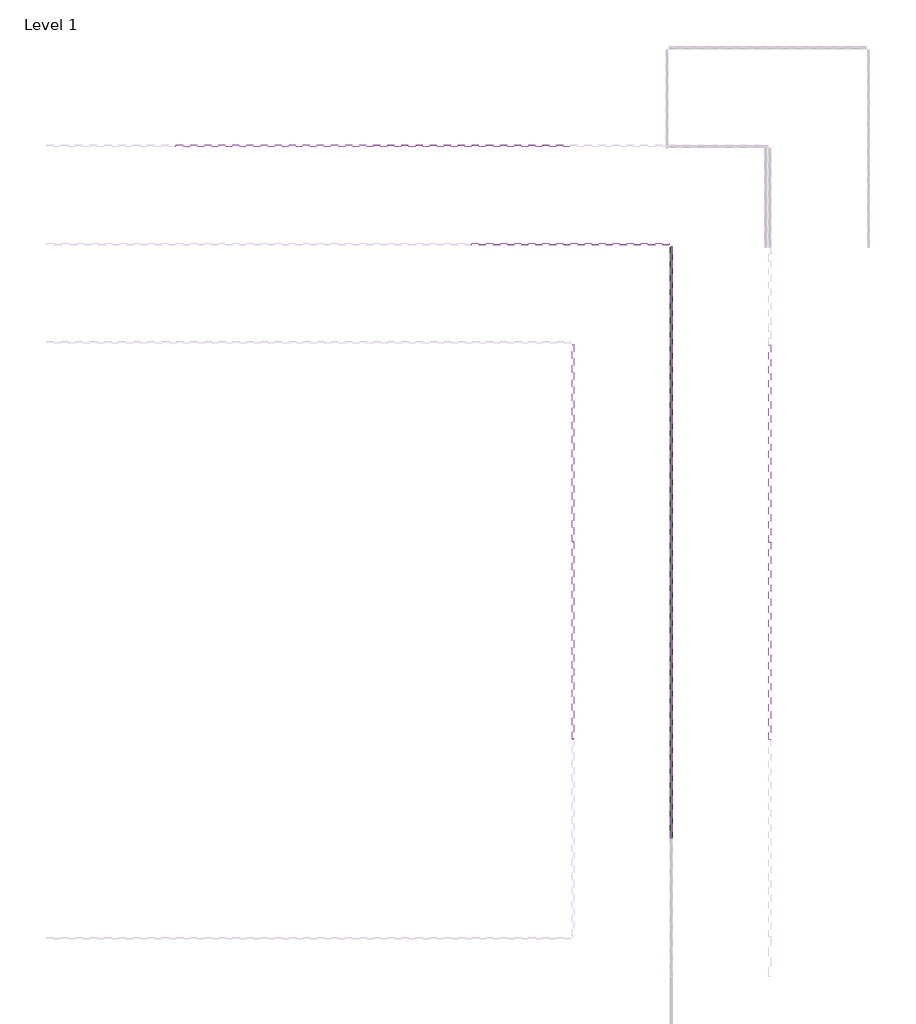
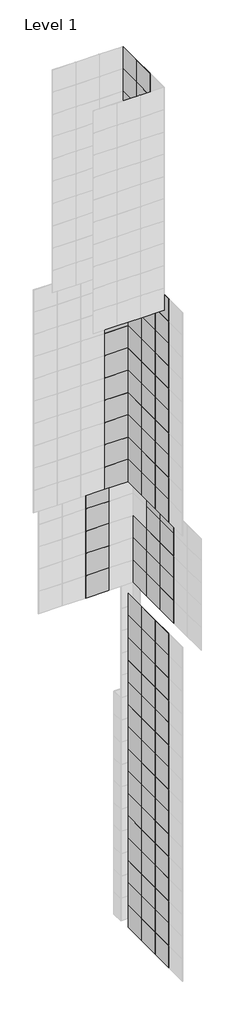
# One storey, part 14 of 15: 135 plates.
"""IFC4 building model written with IfcOpenShell, lengths in millimetres."""

import ifcopenshell
import ifcopenshell.guid

model = None  # the IFC model being written
_history = None  # IfcOwnerHistory: only IFC2X3 demands one
_inside = {}  # id of a spatial element -> (the spatial element, [elements in it])
_under = {}  # id of a project, library or spatial element -> (it, [spatial elements below it])
_declared = {}  # id of a project -> (the project, [libraries it declares])
_typed = {}  # id of a type object -> (the type object, [elements of that type])
_made_of = {}  # id of a material, layer set ... -> (it, [elements and type objects made of it])


def new_model(schema):
    """Start an empty IFC model of exactly this schema.

    Asked for "IFC4X3", IfcOpenShell would pick the latest addendum, in which some entities
    have other attributes; the version numbers below select the first issue.
    IFC2X3 requires an IfcOwnerHistory on every rooted entity: one is made here for all.
    """
    global model, _history
    if schema == "IFC4X3":
        model = ifcopenshell.file(schema_version=(4, 3, 0, 0))
    else:
        model = ifcopenshell.file(schema=schema)
    _inside.clear()
    _under.clear()
    _declared.clear()
    _typed.clear()
    _made_of.clear()
    _history = None
    if model.schema == "IFC2X3":
        org = make("IfcOrganization", Name="unknown")
        user = make(
            "IfcPersonAndOrganization",
            ThePerson=make("IfcPerson", FamilyName="unknown"),
            TheOrganization=org,
        )
        app = make(
            "IfcApplication",
            ApplicationDeveloper=org,
            Version="unknown",
            ApplicationFullName="unknown",
            ApplicationIdentifier="unknown",
        )
        _history = make(
            "IfcOwnerHistory",
            OwningUser=user,
            OwningApplication=app,
            ChangeAction="ADDED",
            CreationDate=0,
        )
    return model


def make(cls, **values):
    """One entity of the class cls with the attributes given. An attribute that is None is left unset."""
    return model.create_entity(
        cls, **{name: value for name, value in values.items() if value is not None}
    )


def rooted(cls, **values):
    """An entity with a GlobalId (a new one), such as an element, a storey or a relation."""
    return make(cls, GlobalId=ifcopenshell.guid.new(), OwnerHistory=_history, **values)


def si_unit(unit_type, name, prefix=None):
    """IfcSIUnit, for example si_unit("LENGTHUNIT", "METRE", prefix="MILLI")."""
    return make("IfcSIUnit", UnitType=unit_type, Prefix=prefix, Name=name)


def assignment(units):
    """IfcUnitAssignment: the units of a project."""
    return None if units is None else make("IfcUnitAssignment", Units=units)


def point(xyz):
    """IfcCartesianPoint."""
    return None if xyz is None else make("IfcCartesianPoint", Coordinates=xyz)


def direction(xyz):
    """IfcDirection."""
    return None if xyz is None else make("IfcDirection", DirectionRatios=xyz)


def frame(location, z_axis=None, x_axis=None):
    """IfcAxis2Placement3D, a coordinate frame: its origin and axes. An axis left out is left unset."""
    return make(
        "IfcAxis2Placement3D",
        Location=point(location),
        Axis=direction(z_axis),
        RefDirection=direction(x_axis),
    )


def origin():
    """The frame at (0, 0, 0) with its axes left unset."""
    return frame((0.0, 0.0, 0.0))


def origin_with_axes():
    """The frame at (0, 0, 0) with the z axis (0, 0, 1) and the x axis (1, 0, 0) written out."""
    return frame((0.0, 0.0, 0.0), z_axis=(0.0, 0.0, 1.0), x_axis=(1.0, 0.0, 0.0))


def place(relative_to, where):
    """IfcLocalPlacement: puts the frame where relative to a parent placement (None: the world)."""
    return make(
        "IfcLocalPlacement", PlacementRelTo=relative_to, RelativePlacement=where
    )


def context(
    kind, dimensions, precision=None, world=None, true_north=None, identifier=None
):
    """IfcGeometricRepresentationContext, for example the 3D "Model" context."""
    return make(
        "IfcGeometricRepresentationContext",
        ContextIdentifier=identifier,
        ContextType=kind,
        CoordinateSpaceDimension=dimensions,
        Precision=precision,
        WorldCoordinateSystem=world,
        TrueNorth=true_north,
    )


def project(units=None, contexts=None):
    """IfcProject with its units and contexts."""
    return rooted(
        "IfcProject",
        Name="project",
        RepresentationContexts=contexts,
        UnitsInContext=assignment(units),
    )


def spatial(cls, under=None, at=None, **own):
    """A site, building, storey or space (cls), placed at a placement, below another one or the project."""
    s = rooted(cls, ObjectPlacement=at, **own)
    if under is not None:
        _under.setdefault(under.id(), (under, []))[1].append(s)
    return s


def polyline(points):
    """IfcPolyline through the points."""
    return make("IfcPolyline", Points=[point(p) for p in points])


def outline(outer, holes=None, kind="AREA"):
    """IfcArbitraryClosedProfileDef: a profile drawn as a closed curve; with holes, ...WithVoids."""
    if holes is None:
        return make("IfcArbitraryClosedProfileDef", ProfileType=kind, OuterCurve=outer)
    return make(
        "IfcArbitraryProfileDefWithVoids",
        ProfileType=kind,
        OuterCurve=outer,
        InnerCurves=holes,
    )


def extrude(swept, where, along, depth):
    """IfcExtrudedAreaSolid: the profile swept, set in the frame where, extruded along a direction by depth."""
    return make(
        "IfcExtrudedAreaSolid",
        SweptArea=swept,
        Position=where,
        ExtrudedDirection=direction(along),
        Depth=depth,
    )


def shape(context_of_items, identifier, shape_type, items):
    """IfcShapeRepresentation: the items that make up one representation, for example the "Body"."""
    return make(
        "IfcShapeRepresentation",
        ContextOfItems=context_of_items,
        RepresentationIdentifier=identifier,
        RepresentationType=shape_type,
        Items=items,
    )


def source(mapping_origin, context_of_items, identifier, shape_type, items):
    """IfcRepresentationMap: a shape defined once, which mapped items show again and again."""
    return make(
        "IfcRepresentationMap",
        MappingOrigin=mapping_origin,
        MappedRepresentation=shape(context_of_items, identifier, shape_type, items),
    )


def transform(
    local_origin,
    x_axis=None,
    y_axis=None,
    z_axis=None,
    scale=None,
    scale2=None,
    scale3=None,
    uniform=True,
):
    """IfcCartesianTransformationOperator3D, or its non-uniform kind. x_axis, y_axis, z_axis: its Axis1, 2, 3."""
    if uniform:
        return make(
            "IfcCartesianTransformationOperator3D",
            Axis1=direction(x_axis),
            Axis2=direction(y_axis),
            LocalOrigin=point(local_origin),
            Scale=scale,
            Axis3=direction(z_axis),
        )
    return make(
        "IfcCartesianTransformationOperator3DnonUniform",
        Axis1=direction(x_axis),
        Axis2=direction(y_axis),
        LocalOrigin=point(local_origin),
        Scale=scale,
        Axis3=direction(z_axis),
        Scale2=scale2,
        Scale3=scale3,
    )


def mapped(mapping_source, mapping_target):
    """IfcMappedItem: shows the shape of a source again, moved by a transform."""
    return make(
        "IfcMappedItem", MappingSource=mapping_source, MappingTarget=mapping_target
    )


def made_of(thing, what):
    """Note that an element or type object is made of a material, layer set ...; save() writes the relation."""
    if what is not None:
        _made_of.setdefault(what.id(), (what, []))[1].append(thing)
    return thing


def element(
    cls,
    number,
    at=None,
    inside=None,
    cuts=None,
    type_object=None,
    material=None,
    context=None,
    identifier="Body",
    shape_type=None,
    held_by="IfcProductDefinitionShape",
    body=None,
    shapes=None,
    **own,
):
    """One element of the class cls, such as IfcWall. Its Tag is "e" and its number.

    at: its placement. inside: the storey or other place that contains it. cuts: it is an
    opening in that element (IfcRelVoidsElement). A single representation is given by context,
    identifier, shape_type and body (its items); several are given by shapes. held_by: the class
    of the entity that holds the representations. save() writes the other relations.
    """
    e = rooted(cls, Tag="e%d" % number, ObjectPlacement=at, **own)
    if body is not None:
        shapes = [shape(context, identifier, shape_type, body)]
    if shapes is not None:
        e.Representation = make(held_by, Representations=shapes)
    if inside is not None:
        _inside.setdefault(inside.id(), (inside, []))[1].append(e)
    if cuts is not None:
        rooted(
            "IfcRelVoidsElement", RelatingBuildingElement=cuts, RelatedOpeningElement=e
        )
    if type_object is not None:
        _typed.setdefault(type_object.id(), (type_object, []))[1].append(e)
    return made_of(e, material)


def aggregate(whole, parts):
    """IfcRelAggregates: a whole, such as a stair, and the parts it consists of."""
    return rooted("IfcRelAggregates", RelatingObject=whole, RelatedObjects=parts)


def save(model, path):
    """Write the relations noted so far, then the file.

    IfcRelAggregates (storeys below a building ...), IfcRelContainedInSpatialStructure (elements
    in a storey), IfcRelDefinesByType, IfcRelAssociatesMaterial and IfcRelDeclares: one each for
    every whole, place, type object, material and project.
    """
    for whole, parts in _under.values():
        aggregate(whole, parts)
    for where, things in _inside.values():
        rooted(
            "IfcRelContainedInSpatialStructure",
            RelatedElements=things,
            RelatingStructure=where,
        )
    for kind, things in _typed.values():
        rooted("IfcRelDefinesByType", RelatedObjects=things, RelatingType=kind)
    for what, things in _made_of.values():
        rooted("IfcRelAssociatesMaterial", RelatedObjects=things, RelatingMaterial=what)
    for by, libraries in _declared.values():
        rooted("IfcRelDeclares", RelatingContext=by, RelatedDefinitions=libraries)
    model.write(path)


def system_panel_glazed_0a0842ec(model_context):
    return source(origin(), model_context, "Body", "SweptSolid", [
        extrude(outline(polyline([(0.0, -1524.0), (0.0, 0.0), (0.0, 1524.0), (3048.0, 1524.0), (3048.0, -1524.0), (0.0, -1524.0)])), frame((0.0, -44.45, 0.0), z_axis=(0.0, 1.0, 0.0), x_axis=(0.0, 0.0, 1.0)), (0.0, 0.0, 1.0), 25.4),
    ])


def system_panel_glazed_aa64d645(model_context):
    return source(origin(), model_context, "Body", "SweptSolid", [
        extrude(outline(polyline([(1524.0, -44.45), (-1524.0, -44.45), (-1524.0, -19.05), (1524.0, -19.05), (1524.0, -44.45)])), origin_with_axes(), (0.0, 0.0, 1.0), 3048.0),
    ])


def system_panel_glazed_b248394d(model_context):
    return source(origin(), model_context, "Body", "SweptSolid", [
        extrude(outline(polyline([(1524.0, 19.05), (-1524.0, 19.05), (-1524.0, 44.45), (1524.0, 44.45), (1524.0, 19.05)])), origin_with_axes(), (0.0, 0.0, 1.0), 3048.0),
    ])


model = new_model("IFC4")

# Units and contexts
model_context = context("Model", 3, world=origin())
ifc_project = project(units=[si_unit("LENGTHUNIT", "METRE", prefix="MILLI")], contexts=[model_context])

# Site, building, storey
site = spatial("IfcSite", under=ifc_project)
building = spatial("IfcBuilding", under=site)
storey = spatial("IfcBuildingStorey", under=building, Name="Level 1", Elevation=0.0)

# Plates
placement = place(None, origin())
system_panel_glazed_shape = system_panel_glazed_0a0842ec(model_context)
element("IfcPlate", 1, ObjectType="System Panel : Glazed", at=placement, inside=storey, context=model_context, shape_type="MappedRepresentation", body=[
    mapped(system_panel_glazed_shape, transform((51834.2903978, 8351.0904402, 45720.0), x_axis=(0.0, 1.0, 0.0), y_axis=(-1.0, 0.0, 0.0), z_axis=(0.0, 0.0, 1.0))),
])
system_panel_glazed_2_shape = system_panel_glazed_aa64d645(model_context)
element("IfcPlate", 2, ObjectType="System Panel : Glazed", at=placement, inside=storey, context=model_context, shape_type="MappedRepresentation", body=[
    mapped(system_panel_glazed_2_shape, transform((51834.2903978, 2255.0904402, 45720.0), x_axis=(0.0, 1.0, 0.0), y_axis=(-1.0, 0.0, 0.0), z_axis=(0.0, 0.0, 1.0))),
])
element("IfcPlate", 3, ObjectType="System Panel : Glazed", at=placement, inside=storey, context=model_context, shape_type="MappedRepresentation", body=[
    mapped(system_panel_glazed_2_shape, transform((51834.2903978, 5303.0904402, 45720.0), x_axis=(0.0, 1.0, 0.0), y_axis=(-1.0, 0.0, 0.0), z_axis=(0.0, 0.0, 1.0))),
])
element("IfcPlate", 4, ObjectType="System Panel : Glazed", at=placement, inside=storey, context=model_context, shape_type="MappedRepresentation", body=[
    mapped(system_panel_glazed_2_shape, transform((51834.2903978, 2255.0904402, 48768.0), x_axis=(0.0, 1.0, 0.0), y_axis=(-1.0, 0.0, 0.0), z_axis=(0.0, 0.0, 1.0))),
])
element("IfcPlate", 5, ObjectType="System Panel : Glazed", at=placement, inside=storey, context=model_context, shape_type="MappedRepresentation", body=[
    mapped(system_panel_glazed_2_shape, transform((51834.2903978, 5303.0904402, 48768.0), x_axis=(0.0, 1.0, 0.0), y_axis=(-1.0, 0.0, 0.0), z_axis=(0.0, 0.0, 1.0))),
])
element("IfcPlate", 6, ObjectType="System Panel : Glazed", at=placement, inside=storey, context=model_context, shape_type="MappedRepresentation", body=[
    mapped(system_panel_glazed_2_shape, transform((51834.2903978, 8351.0904402, 48768.0), x_axis=(0.0, 1.0, 0.0), y_axis=(-1.0, 0.0, 0.0), z_axis=(0.0, 0.0, 1.0))),
])
element("IfcPlate", 7, ObjectType="System Panel : Glazed", at=placement, inside=storey, context=model_context, shape_type="MappedRepresentation", body=[
    mapped(system_panel_glazed_2_shape, transform((51834.2903978, 2255.0904402, 51816.0), x_axis=(0.0, 1.0, 0.0), y_axis=(-1.0, 0.0, 0.0), z_axis=(0.0, 0.0, 1.0))),
])
element("IfcPlate", 8, ObjectType="System Panel : Glazed", at=placement, inside=storey, context=model_context, shape_type="MappedRepresentation", body=[
    mapped(system_panel_glazed_2_shape, transform((51834.2903978, 5303.0904402, 51816.0), x_axis=(0.0, 1.0, 0.0), y_axis=(-1.0, 0.0, 0.0), z_axis=(0.0, 0.0, 1.0))),
])
element("IfcPlate", 9, ObjectType="System Panel : Glazed", at=placement, inside=storey, context=model_context, shape_type="MappedRepresentation", body=[
    mapped(system_panel_glazed_2_shape, transform((51834.2903978, 8351.0904402, 51816.0), x_axis=(0.0, 1.0, 0.0), y_axis=(-1.0, 0.0, 0.0), z_axis=(0.0, 0.0, 1.0))),
])
element("IfcPlate", 10, ObjectType="System Panel : Glazed", at=placement, inside=storey, context=model_context, shape_type="MappedRepresentation", body=[
    mapped(system_panel_glazed_2_shape, transform((51834.2903978, 2255.0904402, 54864.0), x_axis=(0.0, 1.0, 0.0), y_axis=(-1.0, 0.0, 0.0), z_axis=(0.0, 0.0, 1.0))),
])
element("IfcPlate", 11, ObjectType="System Panel : Glazed", at=placement, inside=storey, context=model_context, shape_type="MappedRepresentation", body=[
    mapped(system_panel_glazed_2_shape, transform((51834.2903978, 5303.0904402, 54864.0), x_axis=(0.0, 1.0, 0.0), y_axis=(-1.0, 0.0, 0.0), z_axis=(0.0, 0.0, 1.0))),
])
element("IfcPlate", 12, ObjectType="System Panel : Glazed", at=placement, inside=storey, context=model_context, shape_type="MappedRepresentation", body=[
    mapped(system_panel_glazed_2_shape, transform((51834.2903978, 2255.0904402, 57912.0), x_axis=(0.0, 1.0, 0.0), y_axis=(-1.0, 0.0, 0.0), z_axis=(0.0, 0.0, 1.0))),
])
element("IfcPlate", 13, ObjectType="System Panel : Glazed", at=placement, inside=storey, context=model_context, shape_type="MappedRepresentation", body=[
    mapped(system_panel_glazed_2_shape, transform((51834.2903978, 5303.0904402, 57912.0), x_axis=(0.0, 1.0, 0.0), y_axis=(-1.0, 0.0, 0.0), z_axis=(0.0, 0.0, 1.0))),
])
element("IfcPlate", 14, ObjectType="System Panel : Glazed", at=placement, inside=storey, context=model_context, shape_type="MappedRepresentation", body=[
    mapped(system_panel_glazed_2_shape, transform((47262.2903978, 9875.0904402, 45720.0), x_axis=(-1.0, 0.0, 0.0), y_axis=(0.0, -1.0, 0.0), z_axis=(0.0, 0.0, 1.0))),
])
element("IfcPlate", 15, ObjectType="System Panel : Glazed", at=placement, inside=storey, context=model_context, shape_type="MappedRepresentation", body=[
    mapped(system_panel_glazed_2_shape, transform((47262.2903978, 9875.0904402, 48768.0), x_axis=(-1.0, 0.0, 0.0), y_axis=(0.0, -1.0, 0.0), z_axis=(0.0, 0.0, 1.0))),
])
element("IfcPlate", 16, ObjectType="System Panel : Glazed", at=placement, inside=storey, context=model_context, shape_type="MappedRepresentation", body=[
    mapped(system_panel_glazed_2_shape, transform((47262.2903978, 9875.0904402, 51816.0), x_axis=(-1.0, 0.0, 0.0), y_axis=(0.0, -1.0, 0.0), z_axis=(0.0, 0.0, 1.0))),
])
element("IfcPlate", 17, ObjectType="System Panel : Glazed", at=placement, inside=storey, context=model_context, shape_type="MappedRepresentation", body=[
    mapped(system_panel_glazed_2_shape, transform((47262.2903978, 9875.0904402, 54864.0), x_axis=(-1.0, 0.0, 0.0), y_axis=(0.0, -1.0, 0.0), z_axis=(0.0, 0.0, 1.0))),
])
element("IfcPlate", 18, ObjectType="System Panel : Glazed", at=placement, inside=storey, context=model_context, shape_type="MappedRepresentation", body=[
    mapped(system_panel_glazed_2_shape, transform((47262.2903978, 9875.0904402, 57912.0), x_axis=(-1.0, 0.0, 0.0), y_axis=(0.0, -1.0, 0.0), z_axis=(0.0, 0.0, 1.0))),
])
element("IfcPlate", 19, ObjectType="System Panel : Glazed", at=placement, inside=storey, context=model_context, shape_type="MappedRepresentation", body=[
    mapped(system_panel_glazed_2_shape, transform((50310.2903978, 731.0904402, 60960.0), x_axis=(0.0, 1.0, 0.0), y_axis=(-1.0, 0.0, 0.0), z_axis=(0.0, 0.0, 1.0))),
])
element("IfcPlate", 20, ObjectType="System Panel : Glazed", at=placement, inside=storey, context=model_context, shape_type="MappedRepresentation", body=[
    mapped(system_panel_glazed_2_shape, transform((50310.2903978, 3779.0904402, 60960.0), x_axis=(0.0, 1.0, 0.0), y_axis=(-1.0, 0.0, 0.0), z_axis=(0.0, 0.0, 1.0))),
])
element("IfcPlate", 21, ObjectType="System Panel : Glazed", at=placement, inside=storey, context=model_context, shape_type="MappedRepresentation", body=[
    mapped(system_panel_glazed_2_shape, transform((50310.2903978, 6827.0904402, 60960.0), x_axis=(0.0, 1.0, 0.0), y_axis=(-1.0, 0.0, 0.0), z_axis=(0.0, 0.0, 1.0))),
])
element("IfcPlate", 22, ObjectType="System Panel : Glazed", at=placement, inside=storey, context=model_context, shape_type="MappedRepresentation", body=[
    mapped(system_panel_glazed_2_shape, transform((50310.2903978, 731.0904402, 64008.0), x_axis=(0.0, 1.0, 0.0), y_axis=(-1.0, 0.0, 0.0), z_axis=(0.0, 0.0, 1.0))),
])
element("IfcPlate", 23, ObjectType="System Panel : Glazed", at=placement, inside=storey, context=model_context, shape_type="MappedRepresentation", body=[
    mapped(system_panel_glazed_2_shape, transform((50310.2903978, 3779.0904402, 64008.0), x_axis=(0.0, 1.0, 0.0), y_axis=(-1.0, 0.0, 0.0), z_axis=(0.0, 0.0, 1.0))),
])
element("IfcPlate", 24, ObjectType="System Panel : Glazed", at=placement, inside=storey, context=model_context, shape_type="MappedRepresentation", body=[
    mapped(system_panel_glazed_2_shape, transform((50310.2903978, 6827.0904402, 64008.0), x_axis=(0.0, 1.0, 0.0), y_axis=(-1.0, 0.0, 0.0), z_axis=(0.0, 0.0, 1.0))),
])
element("IfcPlate", 25, ObjectType="System Panel : Glazed", at=placement, inside=storey, context=model_context, shape_type="MappedRepresentation", body=[
    mapped(system_panel_glazed_2_shape, transform((50310.2903978, 731.0904402, 67056.0), x_axis=(0.0, 1.0, 0.0), y_axis=(-1.0, 0.0, 0.0), z_axis=(0.0, 0.0, 1.0))),
])
element("IfcPlate", 26, ObjectType="System Panel : Glazed", at=placement, inside=storey, context=model_context, shape_type="MappedRepresentation", body=[
    mapped(system_panel_glazed_2_shape, transform((50310.2903978, 3779.0904402, 67056.0), x_axis=(0.0, 1.0, 0.0), y_axis=(-1.0, 0.0, 0.0), z_axis=(0.0, 0.0, 1.0))),
])
element("IfcPlate", 27, ObjectType="System Panel : Glazed", at=placement, inside=storey, context=model_context, shape_type="MappedRepresentation", body=[
    mapped(system_panel_glazed_2_shape, transform((50310.2903978, 6827.0904402, 67056.0), x_axis=(0.0, 1.0, 0.0), y_axis=(-1.0, 0.0, 0.0), z_axis=(0.0, 0.0, 1.0))),
])
element("IfcPlate", 28, ObjectType="System Panel : Glazed", at=placement, inside=storey, context=model_context, shape_type="MappedRepresentation", body=[
    mapped(system_panel_glazed_2_shape, transform((50310.2903978, 731.0904402, 70104.0), x_axis=(0.0, 1.0, 0.0), y_axis=(-1.0, 0.0, 0.0), z_axis=(0.0, 0.0, 1.0))),
])
element("IfcPlate", 29, ObjectType="System Panel : Glazed", at=placement, inside=storey, context=model_context, shape_type="MappedRepresentation", body=[
    mapped(system_panel_glazed_2_shape, transform((50310.2903978, 3779.0904402, 70104.0), x_axis=(0.0, 1.0, 0.0), y_axis=(-1.0, 0.0, 0.0), z_axis=(0.0, 0.0, 1.0))),
])
element("IfcPlate", 30, ObjectType="System Panel : Glazed", at=placement, inside=storey, context=model_context, shape_type="MappedRepresentation", body=[
    mapped(system_panel_glazed_2_shape, transform((50310.2903978, 6827.0904402, 70104.0), x_axis=(0.0, 1.0, 0.0), y_axis=(-1.0, 0.0, 0.0), z_axis=(0.0, 0.0, 1.0))),
])
element("IfcPlate", 31, ObjectType="System Panel : Glazed", at=placement, inside=storey, context=model_context, shape_type="MappedRepresentation", body=[
    mapped(system_panel_glazed_2_shape, transform((50310.2903978, 731.0904402, 73152.0), x_axis=(0.0, 1.0, 0.0), y_axis=(-1.0, 0.0, 0.0), z_axis=(0.0, 0.0, 1.0))),
])
element("IfcPlate", 32, ObjectType="System Panel : Glazed", at=placement, inside=storey, context=model_context, shape_type="MappedRepresentation", body=[
    mapped(system_panel_glazed_2_shape, transform((50310.2903978, 3779.0904402, 73152.0), x_axis=(0.0, 1.0, 0.0), y_axis=(-1.0, 0.0, 0.0), z_axis=(0.0, 0.0, 1.0))),
])
element("IfcPlate", 33, ObjectType="System Panel : Glazed", at=placement, inside=storey, context=model_context, shape_type="MappedRepresentation", body=[
    mapped(system_panel_glazed_2_shape, transform((50310.2903978, 6827.0904402, 73152.0), x_axis=(0.0, 1.0, 0.0), y_axis=(-1.0, 0.0, 0.0), z_axis=(0.0, 0.0, 1.0))),
])
element("IfcPlate", 34, ObjectType="System Panel : Glazed", at=placement, inside=storey, context=model_context, shape_type="MappedRepresentation", body=[
    mapped(system_panel_glazed_2_shape, transform((50310.2903978, 731.0904402, 76200.0), x_axis=(0.0, 1.0, 0.0), y_axis=(-1.0, 0.0, 0.0), z_axis=(0.0, 0.0, 1.0))),
])
element("IfcPlate", 35, ObjectType="System Panel : Glazed", at=placement, inside=storey, context=model_context, shape_type="MappedRepresentation", body=[
    mapped(system_panel_glazed_2_shape, transform((50310.2903978, 3779.0904402, 76200.0), x_axis=(0.0, 1.0, 0.0), y_axis=(-1.0, 0.0, 0.0), z_axis=(0.0, 0.0, 1.0))),
])
element("IfcPlate", 36, ObjectType="System Panel : Glazed", at=placement, inside=storey, context=model_context, shape_type="MappedRepresentation", body=[
    mapped(system_panel_glazed_2_shape, transform((50310.2903978, 6827.0904402, 76200.0), x_axis=(0.0, 1.0, 0.0), y_axis=(-1.0, 0.0, 0.0), z_axis=(0.0, 0.0, 1.0))),
])
element("IfcPlate", 37, ObjectType="System Panel : Glazed", at=placement, inside=storey, context=model_context, shape_type="MappedRepresentation", body=[
    mapped(system_panel_glazed_2_shape, transform((50310.2903978, 731.0904402, 79248.0), x_axis=(0.0, 1.0, 0.0), y_axis=(-1.0, 0.0, 0.0), z_axis=(0.0, 0.0, 1.0))),
])
element("IfcPlate", 38, ObjectType="System Panel : Glazed", at=placement, inside=storey, context=model_context, shape_type="MappedRepresentation", body=[
    mapped(system_panel_glazed_2_shape, transform((50310.2903978, 3779.0904402, 79248.0), x_axis=(0.0, 1.0, 0.0), y_axis=(-1.0, 0.0, 0.0), z_axis=(0.0, 0.0, 1.0))),
])
element("IfcPlate", 39, ObjectType="System Panel : Glazed", at=placement, inside=storey, context=model_context, shape_type="MappedRepresentation", body=[
    mapped(system_panel_glazed_2_shape, transform((50310.2903978, 6827.0904402, 79248.0), x_axis=(0.0, 1.0, 0.0), y_axis=(-1.0, 0.0, 0.0), z_axis=(0.0, 0.0, 1.0))),
])
element("IfcPlate", 40, ObjectType="System Panel : Glazed", at=placement, inside=storey, context=model_context, shape_type="MappedRepresentation", body=[
    mapped(system_panel_glazed_2_shape, transform((50310.2903978, 731.0904402, 82296.0), x_axis=(0.0, 1.0, 0.0), y_axis=(-1.0, 0.0, 0.0), z_axis=(0.0, 0.0, 1.0))),
])
element("IfcPlate", 41, ObjectType="System Panel : Glazed", at=placement, inside=storey, context=model_context, shape_type="MappedRepresentation", body=[
    mapped(system_panel_glazed_2_shape, transform((50310.2903978, 3779.0904402, 82296.0), x_axis=(0.0, 1.0, 0.0), y_axis=(-1.0, 0.0, 0.0), z_axis=(0.0, 0.0, 1.0))),
])
element("IfcPlate", 42, ObjectType="System Panel : Glazed", at=placement, inside=storey, context=model_context, shape_type="MappedRepresentation", body=[
    mapped(system_panel_glazed_2_shape, transform((50310.2903978, 6827.0904402, 82296.0), x_axis=(0.0, 1.0, 0.0), y_axis=(-1.0, 0.0, 0.0), z_axis=(0.0, 0.0, 1.0))),
])
element("IfcPlate", 43, ObjectType="System Panel : Glazed", at=placement, inside=storey, context=model_context, shape_type="MappedRepresentation", body=[
    mapped(system_panel_glazed_2_shape, transform((50310.2903978, 731.0904402, 85344.0), x_axis=(0.0, 1.0, 0.0), y_axis=(-1.0, 0.0, 0.0), z_axis=(0.0, 0.0, 1.0))),
])
element("IfcPlate", 44, ObjectType="System Panel : Glazed", at=placement, inside=storey, context=model_context, shape_type="MappedRepresentation", body=[
    mapped(system_panel_glazed_2_shape, transform((50310.2903978, 3779.0904402, 85344.0), x_axis=(0.0, 1.0, 0.0), y_axis=(-1.0, 0.0, 0.0), z_axis=(0.0, 0.0, 1.0))),
])
element("IfcPlate", 45, ObjectType="System Panel : Glazed", at=placement, inside=storey, context=model_context, shape_type="MappedRepresentation", body=[
    mapped(system_panel_glazed_2_shape, transform((50310.2903978, 6827.0904402, 85344.0), x_axis=(0.0, 1.0, 0.0), y_axis=(-1.0, 0.0, 0.0), z_axis=(0.0, 0.0, 1.0))),
])
element("IfcPlate", 46, ObjectType="System Panel : Glazed", at=placement, inside=storey, context=model_context, shape_type="MappedRepresentation", body=[
    mapped(system_panel_glazed_2_shape, transform((50310.2903978, 731.0904402, 88392.0), x_axis=(0.0, 1.0, 0.0), y_axis=(-1.0, 0.0, 0.0), z_axis=(0.0, 0.0, 1.0))),
])
element("IfcPlate", 47, ObjectType="System Panel : Glazed", at=placement, inside=storey, context=model_context, shape_type="MappedRepresentation", body=[
    mapped(system_panel_glazed_2_shape, transform((50310.2903978, 3779.0904402, 88392.0), x_axis=(0.0, 1.0, 0.0), y_axis=(-1.0, 0.0, 0.0), z_axis=(0.0, 0.0, 1.0))),
])
element("IfcPlate", 48, ObjectType="System Panel : Glazed", at=placement, inside=storey, context=model_context, shape_type="MappedRepresentation", body=[
    mapped(system_panel_glazed_2_shape, transform((50310.2903978, 6827.0904402, 88392.0), x_axis=(0.0, 1.0, 0.0), y_axis=(-1.0, 0.0, 0.0), z_axis=(0.0, 0.0, 1.0))),
])
element("IfcPlate", 49, ObjectType="System Panel : Glazed", at=placement, inside=storey, context=model_context, shape_type="MappedRepresentation", body=[
    mapped(system_panel_glazed_2_shape, transform((48786.2903978, 8351.0904402, 60960.0), x_axis=(-1.0, 0.0, 0.0), y_axis=(0.0, -1.0, 0.0), z_axis=(0.0, 0.0, 1.0))),
])
element("IfcPlate", 50, ObjectType="System Panel : Glazed", at=placement, inside=storey, context=model_context, shape_type="MappedRepresentation", body=[
    mapped(system_panel_glazed_2_shape, transform((48786.2903978, 8351.0904402, 64008.0), x_axis=(-1.0, 0.0, 0.0), y_axis=(0.0, -1.0, 0.0), z_axis=(0.0, 0.0, 1.0))),
])
element("IfcPlate", 51, ObjectType="System Panel : Glazed", at=placement, inside=storey, context=model_context, shape_type="MappedRepresentation", body=[
    mapped(system_panel_glazed_2_shape, transform((48786.2903978, 8351.0904402, 67056.0), x_axis=(-1.0, 0.0, 0.0), y_axis=(0.0, -1.0, 0.0), z_axis=(0.0, 0.0, 1.0))),
])
element("IfcPlate", 52, ObjectType="System Panel : Glazed", at=placement, inside=storey, context=model_context, shape_type="MappedRepresentation", body=[
    mapped(system_panel_glazed_2_shape, transform((48786.2903978, 8351.0904402, 70104.0), x_axis=(-1.0, 0.0, 0.0), y_axis=(0.0, -1.0, 0.0), z_axis=(0.0, 0.0, 1.0))),
])
element("IfcPlate", 53, ObjectType="System Panel : Glazed", at=placement, inside=storey, context=model_context, shape_type="MappedRepresentation", body=[
    mapped(system_panel_glazed_2_shape, transform((48786.2903978, 8351.0904402, 73152.0), x_axis=(-1.0, 0.0, 0.0), y_axis=(0.0, -1.0, 0.0), z_axis=(0.0, 0.0, 1.0))),
])
element("IfcPlate", 54, ObjectType="System Panel : Glazed", at=placement, inside=storey, context=model_context, shape_type="MappedRepresentation", body=[
    mapped(system_panel_glazed_2_shape, transform((48786.2903978, 8351.0904402, 76200.0), x_axis=(-1.0, 0.0, 0.0), y_axis=(0.0, -1.0, 0.0), z_axis=(0.0, 0.0, 1.0))),
])
element("IfcPlate", 55, ObjectType="System Panel : Glazed", at=placement, inside=storey, context=model_context, shape_type="MappedRepresentation", body=[
    mapped(system_panel_glazed_2_shape, transform((48786.2903978, 8351.0904402, 79248.0), x_axis=(-1.0, 0.0, 0.0), y_axis=(0.0, -1.0, 0.0), z_axis=(0.0, 0.0, 1.0))),
])
element("IfcPlate", 56, ObjectType="System Panel : Glazed", at=placement, inside=storey, context=model_context, shape_type="MappedRepresentation", body=[
    mapped(system_panel_glazed_2_shape, transform((48786.2903978, 8351.0904402, 82296.0), x_axis=(-1.0, 0.0, 0.0), y_axis=(0.0, -1.0, 0.0), z_axis=(0.0, 0.0, 1.0))),
])
element("IfcPlate", 57, ObjectType="System Panel : Glazed", at=placement, inside=storey, context=model_context, shape_type="MappedRepresentation", body=[
    mapped(system_panel_glazed_2_shape, transform((48786.2903978, 8351.0904402, 85344.0), x_axis=(-1.0, 0.0, 0.0), y_axis=(0.0, -1.0, 0.0), z_axis=(0.0, 0.0, 1.0))),
])
element("IfcPlate", 58, ObjectType="System Panel : Glazed", at=placement, inside=storey, context=model_context, shape_type="MappedRepresentation", body=[
    mapped(system_panel_glazed_2_shape, transform((48786.2903978, 8351.0904402, 88392.0), x_axis=(-1.0, 0.0, 0.0), y_axis=(0.0, -1.0, 0.0), z_axis=(0.0, 0.0, 1.0))),
])
element("IfcPlate", 59, ObjectType="System Panel : Glazed", at=placement, inside=storey, context=model_context, shape_type="MappedRepresentation", body=[
    mapped(system_panel_glazed_2_shape, transform((48791.8576677, 2255.0904402, 91440.0), x_axis=(0.0, 1.0, 0.0), y_axis=(-1.0, 0.0, 0.0), z_axis=(0.0, 0.0, 1.0))),
])
element("IfcPlate", 60, ObjectType="System Panel : Glazed", at=placement, inside=storey, context=model_context, shape_type="MappedRepresentation", body=[
    mapped(system_panel_glazed_2_shape, transform((48791.8576677, 5303.0904402, 91440.0), x_axis=(0.0, 1.0, 0.0), y_axis=(-1.0, 0.0, 0.0), z_axis=(0.0, 0.0, 1.0))),
])
element("IfcPlate", 61, ObjectType="System Panel : Glazed", at=placement, inside=storey, context=model_context, shape_type="MappedRepresentation", body=[
    mapped(system_panel_glazed_2_shape, transform((48791.8576677, 2255.0904402, 94488.0), x_axis=(0.0, 1.0, 0.0), y_axis=(-1.0, 0.0, 0.0), z_axis=(0.0, 0.0, 1.0))),
])
element("IfcPlate", 62, ObjectType="System Panel : Glazed", at=placement, inside=storey, context=model_context, shape_type="MappedRepresentation", body=[
    mapped(system_panel_glazed_2_shape, transform((48791.8576677, 5303.0904402, 94488.0), x_axis=(0.0, 1.0, 0.0), y_axis=(-1.0, 0.0, 0.0), z_axis=(0.0, 0.0, 1.0))),
])
element("IfcPlate", 63, ObjectType="System Panel : Glazed", at=placement, inside=storey, context=model_context, shape_type="MappedRepresentation", body=[
    mapped(system_panel_glazed_2_shape, transform((48791.8576677, 2255.0904402, 97536.0), x_axis=(0.0, 1.0, 0.0), y_axis=(-1.0, 0.0, 0.0), z_axis=(0.0, 0.0, 1.0))),
])
element("IfcPlate", 64, ObjectType="System Panel : Glazed", at=placement, inside=storey, context=model_context, shape_type="MappedRepresentation", body=[
    mapped(system_panel_glazed_2_shape, transform((48791.8576677, 5303.0904402, 97536.0), x_axis=(0.0, 1.0, 0.0), y_axis=(-1.0, 0.0, 0.0), z_axis=(0.0, 0.0, 1.0))),
])
element("IfcPlate", 65, ObjectType="System Panel : Glazed", at=placement, inside=storey, context=model_context, shape_type="MappedRepresentation", body=[
    mapped(system_panel_glazed_2_shape, transform((48791.8576677, 2255.0904402, 100584.0), x_axis=(0.0, 1.0, 0.0), y_axis=(-1.0, 0.0, 0.0), z_axis=(0.0, 0.0, 1.0))),
])
element("IfcPlate", 66, ObjectType="System Panel : Glazed", at=placement, inside=storey, context=model_context, shape_type="MappedRepresentation", body=[
    mapped(system_panel_glazed_2_shape, transform((48791.8576677, 5303.0904402, 100584.0), x_axis=(0.0, 1.0, 0.0), y_axis=(-1.0, 0.0, 0.0), z_axis=(0.0, 0.0, 1.0))),
])
element("IfcPlate", 67, ObjectType="System Panel : Glazed", at=placement, inside=storey, context=model_context, shape_type="MappedRepresentation", body=[
    mapped(system_panel_glazed_2_shape, transform((48791.8576677, 2255.0904402, 103632.0), x_axis=(0.0, 1.0, 0.0), y_axis=(-1.0, 0.0, 0.0), z_axis=(0.0, 0.0, 1.0))),
])
element("IfcPlate", 68, ObjectType="System Panel : Glazed", at=placement, inside=storey, context=model_context, shape_type="MappedRepresentation", body=[
    mapped(system_panel_glazed_2_shape, transform((48791.8576677, 5303.0904402, 103632.0), x_axis=(0.0, 1.0, 0.0), y_axis=(-1.0, 0.0, 0.0), z_axis=(0.0, 0.0, 1.0))),
])
element("IfcPlate", 69, ObjectType="System Panel : Glazed", at=placement, inside=storey, context=model_context, shape_type="MappedRepresentation", body=[
    mapped(system_panel_glazed_2_shape, transform((48791.8576677, 2255.0904402, 106680.0), x_axis=(0.0, 1.0, 0.0), y_axis=(-1.0, 0.0, 0.0), z_axis=(0.0, 0.0, 1.0))),
])
element("IfcPlate", 70, ObjectType="System Panel : Glazed", at=placement, inside=storey, context=model_context, shape_type="MappedRepresentation", body=[
    mapped(system_panel_glazed_2_shape, transform((48791.8576677, 5303.0904402, 106680.0), x_axis=(0.0, 1.0, 0.0), y_axis=(-1.0, 0.0, 0.0), z_axis=(0.0, 0.0, 1.0))),
])
element("IfcPlate", 71, ObjectType="System Panel : Glazed", at=placement, inside=storey, context=model_context, shape_type="MappedRepresentation", body=[
    mapped(system_panel_glazed_2_shape, transform((48791.8576677, 2255.0904402, 109728.0), x_axis=(0.0, 1.0, 0.0), y_axis=(-1.0, 0.0, 0.0), z_axis=(0.0, 0.0, 1.0))),
])
element("IfcPlate", 72, ObjectType="System Panel : Glazed", at=placement, inside=storey, context=model_context, shape_type="MappedRepresentation", body=[
    mapped(system_panel_glazed_2_shape, transform((48791.8576677, 5303.0904402, 109728.0), x_axis=(0.0, 1.0, 0.0), y_axis=(-1.0, 0.0, 0.0), z_axis=(0.0, 0.0, 1.0))),
])
element("IfcPlate", 73, ObjectType="System Panel : Glazed", at=placement, inside=storey, context=model_context, shape_type="MappedRepresentation", body=[
    mapped(system_panel_glazed_2_shape, transform((48791.8576677, 2255.0904402, 112776.0), x_axis=(0.0, 1.0, 0.0), y_axis=(-1.0, 0.0, 0.0), z_axis=(0.0, 0.0, 1.0))),
])
element("IfcPlate", 74, ObjectType="System Panel : Glazed", at=placement, inside=storey, context=model_context, shape_type="MappedRepresentation", body=[
    mapped(system_panel_glazed_2_shape, transform((48791.8576677, 5303.0904402, 112776.0), x_axis=(0.0, 1.0, 0.0), y_axis=(-1.0, 0.0, 0.0), z_axis=(0.0, 0.0, 1.0))),
])
element("IfcPlate", 75, ObjectType="System Panel : Glazed", at=placement, inside=storey, context=model_context, shape_type="MappedRepresentation", body=[
    mapped(system_panel_glazed_2_shape, transform((48791.8576677, 2255.0904402, 115824.0), x_axis=(0.0, 1.0, 0.0), y_axis=(-1.0, 0.0, 0.0), z_axis=(0.0, 0.0, 1.0))),
])
element("IfcPlate", 76, ObjectType="System Panel : Glazed", at=placement, inside=storey, context=model_context, shape_type="MappedRepresentation", body=[
    mapped(system_panel_glazed_2_shape, transform((48791.8576677, 5303.0904402, 115824.0), x_axis=(0.0, 1.0, 0.0), y_axis=(-1.0, 0.0, 0.0), z_axis=(0.0, 0.0, 1.0))),
])
element("IfcPlate", 77, ObjectType="System Panel : Glazed", at=placement, inside=storey, context=model_context, shape_type="MappedRepresentation", body=[
    mapped(system_panel_glazed_2_shape, transform((48791.8576677, 2255.0904402, 118872.0), x_axis=(0.0, 1.0, 0.0), y_axis=(-1.0, 0.0, 0.0), z_axis=(0.0, 0.0, 1.0))),
])
element("IfcPlate", 78, ObjectType="System Panel : Glazed", at=placement, inside=storey, context=model_context, shape_type="MappedRepresentation", body=[
    mapped(system_panel_glazed_2_shape, transform((48791.8576677, 5303.0904402, 118872.0), x_axis=(0.0, 1.0, 0.0), y_axis=(-1.0, 0.0, 0.0), z_axis=(0.0, 0.0, 1.0))),
])
element("IfcPlate", 79, ObjectType="System Panel : Glazed", at=placement, inside=storey, context=model_context, shape_type="MappedRepresentation", body=[
    mapped(system_panel_glazed_2_shape, transform((47262.2903978, 9875.0904402, 45720.0), x_axis=(-1.0, 0.0, 0.0), y_axis=(0.0, -1.0, 0.0), z_axis=(0.0, 0.0, 1.0))),
])
element("IfcPlate", 80, ObjectType="System Panel : Glazed", at=placement, inside=storey, context=model_context, shape_type="MappedRepresentation", body=[
    mapped(system_panel_glazed_2_shape, transform((47262.2903978, 9875.0904402, 48768.0), x_axis=(-1.0, 0.0, 0.0), y_axis=(0.0, -1.0, 0.0), z_axis=(0.0, 0.0, 1.0))),
])
element("IfcPlate", 81, ObjectType="System Panel : Glazed", at=placement, inside=storey, context=model_context, shape_type="MappedRepresentation", body=[
    mapped(system_panel_glazed_2_shape, transform((47262.2903978, 9875.0904402, 51816.0), x_axis=(-1.0, 0.0, 0.0), y_axis=(0.0, -1.0, 0.0), z_axis=(0.0, 0.0, 1.0))),
])
element("IfcPlate", 82, ObjectType="System Panel : Glazed", at=placement, inside=storey, context=model_context, shape_type="MappedRepresentation", body=[
    mapped(system_panel_glazed_2_shape, transform((47262.2903978, 9875.0904402, 54864.0), x_axis=(-1.0, 0.0, 0.0), y_axis=(0.0, -1.0, 0.0), z_axis=(0.0, 0.0, 1.0))),
])
element("IfcPlate", 83, ObjectType="System Panel : Glazed", at=placement, inside=storey, context=model_context, shape_type="MappedRepresentation", body=[
    mapped(system_panel_glazed_2_shape, transform((47262.2903978, 9875.0904402, 57912.0), x_axis=(-1.0, 0.0, 0.0), y_axis=(0.0, -1.0, 0.0), z_axis=(0.0, 0.0, 1.0))),
])
element("IfcPlate", 84, ObjectType="System Panel : Glazed", at=placement, inside=storey, context=model_context, shape_type="MappedRepresentation", body=[
    mapped(system_panel_glazed_2_shape, transform((47262.2903978, 9875.0904402, 45720.0), x_axis=(-1.0, 0.0, 0.0), y_axis=(0.0, -1.0, 0.0), z_axis=(0.0, 0.0, 1.0))),
])
element("IfcPlate", 85, ObjectType="System Panel : Glazed", at=placement, inside=storey, context=model_context, shape_type="MappedRepresentation", body=[
    mapped(system_panel_glazed_2_shape, transform((47262.2903978, 9875.0904402, 48768.0), x_axis=(-1.0, 0.0, 0.0), y_axis=(0.0, -1.0, 0.0), z_axis=(0.0, 0.0, 1.0))),
])
element("IfcPlate", 86, ObjectType="System Panel : Glazed", at=placement, inside=storey, context=model_context, shape_type="MappedRepresentation", body=[
    mapped(system_panel_glazed_2_shape, transform((47262.2903978, 9875.0904402, 51816.0), x_axis=(-1.0, 0.0, 0.0), y_axis=(0.0, -1.0, 0.0), z_axis=(0.0, 0.0, 1.0))),
])
element("IfcPlate", 87, ObjectType="System Panel : Glazed", at=placement, inside=storey, context=model_context, shape_type="MappedRepresentation", body=[
    mapped(system_panel_glazed_2_shape, transform((47262.2903978, 9875.0904402, 54864.0), x_axis=(-1.0, 0.0, 0.0), y_axis=(0.0, -1.0, 0.0), z_axis=(0.0, 0.0, 1.0))),
])
element("IfcPlate", 88, ObjectType="System Panel : Glazed", at=placement, inside=storey, context=model_context, shape_type="MappedRepresentation", body=[
    mapped(system_panel_glazed_2_shape, transform((44214.2903978, 9875.0904402, 54864.0), x_axis=(-1.0, 0.0, 0.0), y_axis=(0.0, -1.0, 0.0), z_axis=(0.0, 0.0, 1.0))),
])
element("IfcPlate", 89, ObjectType="System Panel : Glazed", at=placement, inside=storey, context=model_context, shape_type="MappedRepresentation", body=[
    mapped(system_panel_glazed_2_shape, transform((47262.2903978, 9875.0904402, 57912.0), x_axis=(-1.0, 0.0, 0.0), y_axis=(0.0, -1.0, 0.0), z_axis=(0.0, 0.0, 1.0))),
])
element("IfcPlate", 90, ObjectType="System Panel : Glazed", at=placement, inside=storey, context=model_context, shape_type="MappedRepresentation", body=[
    mapped(system_panel_glazed_2_shape, transform((44214.2903978, 9875.0904402, 57912.0), x_axis=(-1.0, 0.0, 0.0), y_axis=(0.0, -1.0, 0.0), z_axis=(0.0, 0.0, 1.0))),
])
system_panel_glazed_3_shape = system_panel_glazed_b248394d(model_context)
element("IfcPlate", 91, ObjectType="System Panel : Glazed", at=placement, inside=storey, context=model_context, shape_type="MappedRepresentation", body=[
    mapped(system_panel_glazed_3_shape, transform((50310.2903978, 6827.0904402, 0.0), x_axis=(0.0, -1.0, 0.0), y_axis=(1.0, 0.0, 0.0), z_axis=(0.0, 0.0, 1.0))),
])
element("IfcPlate", 92, ObjectType="System Panel : Glazed", at=placement, inside=storey, context=model_context, shape_type="MappedRepresentation", body=[
    mapped(system_panel_glazed_3_shape, transform((50310.2903978, 3779.0904402, 0.0), x_axis=(0.0, -1.0, 0.0), y_axis=(1.0, 0.0, 0.0), z_axis=(0.0, 0.0, 1.0))),
])
element("IfcPlate", 93, ObjectType="System Panel : Glazed", at=placement, inside=storey, context=model_context, shape_type="MappedRepresentation", body=[
    mapped(system_panel_glazed_3_shape, transform((50310.2903978, 731.0904402, 0.0), x_axis=(0.0, -1.0, 0.0), y_axis=(1.0, 0.0, 0.0), z_axis=(0.0, 0.0, 1.0))),
])
element("IfcPlate", 94, ObjectType="System Panel : Glazed", at=placement, inside=storey, context=model_context, shape_type="MappedRepresentation", body=[
    mapped(system_panel_glazed_3_shape, transform((50310.2903978, 6827.0904402, 3048.0), x_axis=(0.0, -1.0, 0.0), y_axis=(1.0, 0.0, 0.0), z_axis=(0.0, 0.0, 1.0))),
])
element("IfcPlate", 95, ObjectType="System Panel : Glazed", at=placement, inside=storey, context=model_context, shape_type="MappedRepresentation", body=[
    mapped(system_panel_glazed_3_shape, transform((50310.2903978, 3779.0904402, 3048.0), x_axis=(0.0, -1.0, 0.0), y_axis=(1.0, 0.0, 0.0), z_axis=(0.0, 0.0, 1.0))),
])
element("IfcPlate", 96, ObjectType="System Panel : Glazed", at=placement, inside=storey, context=model_context, shape_type="MappedRepresentation", body=[
    mapped(system_panel_glazed_3_shape, transform((50310.2903978, 731.0904402, 3048.0), x_axis=(0.0, -1.0, 0.0), y_axis=(1.0, 0.0, 0.0), z_axis=(0.0, 0.0, 1.0))),
])
element("IfcPlate", 97, ObjectType="System Panel : Glazed", at=placement, inside=storey, context=model_context, shape_type="MappedRepresentation", body=[
    mapped(system_panel_glazed_3_shape, transform((50310.2903978, 6827.0904402, 6096.0), x_axis=(0.0, -1.0, 0.0), y_axis=(1.0, 0.0, 0.0), z_axis=(0.0, 0.0, 1.0))),
])
element("IfcPlate", 98, ObjectType="System Panel : Glazed", at=placement, inside=storey, context=model_context, shape_type="MappedRepresentation", body=[
    mapped(system_panel_glazed_3_shape, transform((50310.2903978, 3779.0904402, 6096.0), x_axis=(0.0, -1.0, 0.0), y_axis=(1.0, 0.0, 0.0), z_axis=(0.0, 0.0, 1.0))),
])
element("IfcPlate", 99, ObjectType="System Panel : Glazed", at=placement, inside=storey, context=model_context, shape_type="MappedRepresentation", body=[
    mapped(system_panel_glazed_3_shape, transform((50310.2903978, 731.0904402, 6096.0), x_axis=(0.0, -1.0, 0.0), y_axis=(1.0, 0.0, 0.0), z_axis=(0.0, 0.0, 1.0))),
])
element("IfcPlate", 100, ObjectType="System Panel : Glazed", at=placement, inside=storey, context=model_context, shape_type="MappedRepresentation", body=[
    mapped(system_panel_glazed_3_shape, transform((50310.2903978, 6827.0904402, 9144.0), x_axis=(0.0, -1.0, 0.0), y_axis=(1.0, 0.0, 0.0), z_axis=(0.0, 0.0, 1.0))),
])
element("IfcPlate", 101, ObjectType="System Panel : Glazed", at=placement, inside=storey, context=model_context, shape_type="MappedRepresentation", body=[
    mapped(system_panel_glazed_3_shape, transform((50310.2903978, 3779.0904402, 9144.0), x_axis=(0.0, -1.0, 0.0), y_axis=(1.0, 0.0, 0.0), z_axis=(0.0, 0.0, 1.0))),
])
element("IfcPlate", 102, ObjectType="System Panel : Glazed", at=placement, inside=storey, context=model_context, shape_type="MappedRepresentation", body=[
    mapped(system_panel_glazed_3_shape, transform((50310.2903978, 731.0904402, 9144.0), x_axis=(0.0, -1.0, 0.0), y_axis=(1.0, 0.0, 0.0), z_axis=(0.0, 0.0, 1.0))),
])
element("IfcPlate", 103, ObjectType="System Panel : Glazed", at=placement, inside=storey, context=model_context, shape_type="MappedRepresentation", body=[
    mapped(system_panel_glazed_3_shape, transform((50310.2903978, 6827.0904402, 12192.0), x_axis=(0.0, -1.0, 0.0), y_axis=(1.0, 0.0, 0.0), z_axis=(0.0, 0.0, 1.0))),
])
element("IfcPlate", 104, ObjectType="System Panel : Glazed", at=placement, inside=storey, context=model_context, shape_type="MappedRepresentation", body=[
    mapped(system_panel_glazed_3_shape, transform((50310.2903978, 3779.0904402, 12192.0), x_axis=(0.0, -1.0, 0.0), y_axis=(1.0, 0.0, 0.0), z_axis=(0.0, 0.0, 1.0))),
])
element("IfcPlate", 105, ObjectType="System Panel : Glazed", at=placement, inside=storey, context=model_context, shape_type="MappedRepresentation", body=[
    mapped(system_panel_glazed_3_shape, transform((50310.2903978, 731.0904402, 12192.0), x_axis=(0.0, -1.0, 0.0), y_axis=(1.0, 0.0, 0.0), z_axis=(0.0, 0.0, 1.0))),
])
element("IfcPlate", 106, ObjectType="System Panel : Glazed", at=placement, inside=storey, context=model_context, shape_type="MappedRepresentation", body=[
    mapped(system_panel_glazed_3_shape, transform((50310.2903978, 6827.0904402, 15240.0), x_axis=(0.0, -1.0, 0.0), y_axis=(1.0, 0.0, 0.0), z_axis=(0.0, 0.0, 1.0))),
])
element("IfcPlate", 107, ObjectType="System Panel : Glazed", at=placement, inside=storey, context=model_context, shape_type="MappedRepresentation", body=[
    mapped(system_panel_glazed_3_shape, transform((50310.2903978, 3779.0904402, 15240.0), x_axis=(0.0, -1.0, 0.0), y_axis=(1.0, 0.0, 0.0), z_axis=(0.0, 0.0, 1.0))),
])
element("IfcPlate", 108, ObjectType="System Panel : Glazed", at=placement, inside=storey, context=model_context, shape_type="MappedRepresentation", body=[
    mapped(system_panel_glazed_3_shape, transform((50310.2903978, 731.0904402, 15240.0), x_axis=(0.0, -1.0, 0.0), y_axis=(1.0, 0.0, 0.0), z_axis=(0.0, 0.0, 1.0))),
])
element("IfcPlate", 109, ObjectType="System Panel : Glazed", at=placement, inside=storey, context=model_context, shape_type="MappedRepresentation", body=[
    mapped(system_panel_glazed_3_shape, transform((50310.2903978, 6827.0904402, 18288.0), x_axis=(0.0, -1.0, 0.0), y_axis=(1.0, 0.0, 0.0), z_axis=(0.0, 0.0, 1.0))),
])
element("IfcPlate", 110, ObjectType="System Panel : Glazed", at=placement, inside=storey, context=model_context, shape_type="MappedRepresentation", body=[
    mapped(system_panel_glazed_3_shape, transform((50310.2903978, 3779.0904402, 18288.0), x_axis=(0.0, -1.0, 0.0), y_axis=(1.0, 0.0, 0.0), z_axis=(0.0, 0.0, 1.0))),
])
element("IfcPlate", 111, ObjectType="System Panel : Glazed", at=placement, inside=storey, context=model_context, shape_type="MappedRepresentation", body=[
    mapped(system_panel_glazed_3_shape, transform((50310.2903978, 731.0904402, 18288.0), x_axis=(0.0, -1.0, 0.0), y_axis=(1.0, 0.0, 0.0), z_axis=(0.0, 0.0, 1.0))),
])
element("IfcPlate", 112, ObjectType="System Panel : Glazed", at=placement, inside=storey, context=model_context, shape_type="MappedRepresentation", body=[
    mapped(system_panel_glazed_3_shape, transform((50310.2903978, 6827.0904402, 21336.0), x_axis=(0.0, -1.0, 0.0), y_axis=(1.0, 0.0, 0.0), z_axis=(0.0, 0.0, 1.0))),
])
element("IfcPlate", 113, ObjectType="System Panel : Glazed", at=placement, inside=storey, context=model_context, shape_type="MappedRepresentation", body=[
    mapped(system_panel_glazed_3_shape, transform((50310.2903978, 3779.0904402, 21336.0), x_axis=(0.0, -1.0, 0.0), y_axis=(1.0, 0.0, 0.0), z_axis=(0.0, 0.0, 1.0))),
])
element("IfcPlate", 114, ObjectType="System Panel : Glazed", at=placement, inside=storey, context=model_context, shape_type="MappedRepresentation", body=[
    mapped(system_panel_glazed_3_shape, transform((50310.2903978, 731.0904402, 21336.0), x_axis=(0.0, -1.0, 0.0), y_axis=(1.0, 0.0, 0.0), z_axis=(0.0, 0.0, 1.0))),
])
element("IfcPlate", 115, ObjectType="System Panel : Glazed", at=placement, inside=storey, context=model_context, shape_type="MappedRepresentation", body=[
    mapped(system_panel_glazed_3_shape, transform((50310.2903978, 6827.0904402, 24384.0), x_axis=(0.0, -1.0, 0.0), y_axis=(1.0, 0.0, 0.0), z_axis=(0.0, 0.0, 1.0))),
])
element("IfcPlate", 116, ObjectType="System Panel : Glazed", at=placement, inside=storey, context=model_context, shape_type="MappedRepresentation", body=[
    mapped(system_panel_glazed_3_shape, transform((50310.2903978, 3779.0904402, 24384.0), x_axis=(0.0, -1.0, 0.0), y_axis=(1.0, 0.0, 0.0), z_axis=(0.0, 0.0, 1.0))),
])
element("IfcPlate", 117, ObjectType="System Panel : Glazed", at=placement, inside=storey, context=model_context, shape_type="MappedRepresentation", body=[
    mapped(system_panel_glazed_3_shape, transform((50310.2903978, 731.0904402, 24384.0), x_axis=(0.0, -1.0, 0.0), y_axis=(1.0, 0.0, 0.0), z_axis=(0.0, 0.0, 1.0))),
])
element("IfcPlate", 118, ObjectType="System Panel : Glazed", at=placement, inside=storey, context=model_context, shape_type="MappedRepresentation", body=[
    mapped(system_panel_glazed_3_shape, transform((50310.2903978, 6827.0904402, 27432.0), x_axis=(0.0, -1.0, 0.0), y_axis=(1.0, 0.0, 0.0), z_axis=(0.0, 0.0, 1.0))),
])
element("IfcPlate", 119, ObjectType="System Panel : Glazed", at=placement, inside=storey, context=model_context, shape_type="MappedRepresentation", body=[
    mapped(system_panel_glazed_3_shape, transform((50310.2903978, 3779.0904402, 27432.0), x_axis=(0.0, -1.0, 0.0), y_axis=(1.0, 0.0, 0.0), z_axis=(0.0, 0.0, 1.0))),
])
element("IfcPlate", 120, ObjectType="System Panel : Glazed", at=placement, inside=storey, context=model_context, shape_type="MappedRepresentation", body=[
    mapped(system_panel_glazed_3_shape, transform((50310.2903978, 731.0904402, 27432.0), x_axis=(0.0, -1.0, 0.0), y_axis=(1.0, 0.0, 0.0), z_axis=(0.0, 0.0, 1.0))),
])
element("IfcPlate", 121, ObjectType="System Panel : Glazed", at=placement, inside=storey, context=model_context, shape_type="MappedRepresentation", body=[
    mapped(system_panel_glazed_3_shape, transform((50310.2903978, 6827.0904402, 30480.0), x_axis=(0.0, -1.0, 0.0), y_axis=(1.0, 0.0, 0.0), z_axis=(0.0, 0.0, 1.0))),
])
element("IfcPlate", 122, ObjectType="System Panel : Glazed", at=placement, inside=storey, context=model_context, shape_type="MappedRepresentation", body=[
    mapped(system_panel_glazed_3_shape, transform((50310.2903978, 3779.0904402, 30480.0), x_axis=(0.0, -1.0, 0.0), y_axis=(1.0, 0.0, 0.0), z_axis=(0.0, 0.0, 1.0))),
])
element("IfcPlate", 123, ObjectType="System Panel : Glazed", at=placement, inside=storey, context=model_context, shape_type="MappedRepresentation", body=[
    mapped(system_panel_glazed_3_shape, transform((50310.2903978, 731.0904402, 30480.0), x_axis=(0.0, -1.0, 0.0), y_axis=(1.0, 0.0, 0.0), z_axis=(0.0, 0.0, 1.0))),
])
element("IfcPlate", 124, ObjectType="System Panel : Glazed", at=placement, inside=storey, context=model_context, shape_type="MappedRepresentation", body=[
    mapped(system_panel_glazed_3_shape, transform((50310.2903978, 6827.0904402, 33528.0), x_axis=(0.0, -1.0, 0.0), y_axis=(1.0, 0.0, 0.0), z_axis=(0.0, 0.0, 1.0))),
])
element("IfcPlate", 125, ObjectType="System Panel : Glazed", at=placement, inside=storey, context=model_context, shape_type="MappedRepresentation", body=[
    mapped(system_panel_glazed_3_shape, transform((50310.2903978, 3779.0904402, 33528.0), x_axis=(0.0, -1.0, 0.0), y_axis=(1.0, 0.0, 0.0), z_axis=(0.0, 0.0, 1.0))),
])
element("IfcPlate", 126, ObjectType="System Panel : Glazed", at=placement, inside=storey, context=model_context, shape_type="MappedRepresentation", body=[
    mapped(system_panel_glazed_3_shape, transform((50310.2903978, 731.0904402, 33528.0), x_axis=(0.0, -1.0, 0.0), y_axis=(1.0, 0.0, 0.0), z_axis=(0.0, 0.0, 1.0))),
])
element("IfcPlate", 127, ObjectType="System Panel : Glazed", at=placement, inside=storey, context=model_context, shape_type="MappedRepresentation", body=[
    mapped(system_panel_glazed_3_shape, transform((50310.2903978, 6827.0904402, 36576.0), x_axis=(0.0, -1.0, 0.0), y_axis=(1.0, 0.0, 0.0), z_axis=(0.0, 0.0, 1.0))),
])
element("IfcPlate", 128, ObjectType="System Panel : Glazed", at=placement, inside=storey, context=model_context, shape_type="MappedRepresentation", body=[
    mapped(system_panel_glazed_3_shape, transform((50310.2903978, 3779.0904402, 36576.0), x_axis=(0.0, -1.0, 0.0), y_axis=(1.0, 0.0, 0.0), z_axis=(0.0, 0.0, 1.0))),
])
element("IfcPlate", 129, ObjectType="System Panel : Glazed", at=placement, inside=storey, context=model_context, shape_type="MappedRepresentation", body=[
    mapped(system_panel_glazed_3_shape, transform((50310.2903978, 731.0904402, 36576.0), x_axis=(0.0, -1.0, 0.0), y_axis=(1.0, 0.0, 0.0), z_axis=(0.0, 0.0, 1.0))),
])
element("IfcPlate", 130, ObjectType="System Panel : Glazed", at=placement, inside=storey, context=model_context, shape_type="MappedRepresentation", body=[
    mapped(system_panel_glazed_3_shape, transform((50310.2903978, 6827.0904402, 39624.0), x_axis=(0.0, -1.0, 0.0), y_axis=(1.0, 0.0, 0.0), z_axis=(0.0, 0.0, 1.0))),
])
element("IfcPlate", 131, ObjectType="System Panel : Glazed", at=placement, inside=storey, context=model_context, shape_type="MappedRepresentation", body=[
    mapped(system_panel_glazed_3_shape, transform((50310.2903978, 3779.0904402, 39624.0), x_axis=(0.0, -1.0, 0.0), y_axis=(1.0, 0.0, 0.0), z_axis=(0.0, 0.0, 1.0))),
])
element("IfcPlate", 132, ObjectType="System Panel : Glazed", at=placement, inside=storey, context=model_context, shape_type="MappedRepresentation", body=[
    mapped(system_panel_glazed_3_shape, transform((50310.2903978, 731.0904402, 39624.0), x_axis=(0.0, -1.0, 0.0), y_axis=(1.0, 0.0, 0.0), z_axis=(0.0, 0.0, 1.0))),
])
element("IfcPlate", 133, ObjectType="System Panel : Glazed", at=placement, inside=storey, context=model_context, shape_type="MappedRepresentation", body=[
    mapped(system_panel_glazed_3_shape, transform((50310.2903978, 6827.0904402, 42672.0), x_axis=(0.0, -1.0, 0.0), y_axis=(1.0, 0.0, 0.0), z_axis=(0.0, 0.0, 1.0))),
])
element("IfcPlate", 134, ObjectType="System Panel : Glazed", at=placement, inside=storey, context=model_context, shape_type="MappedRepresentation", body=[
    mapped(system_panel_glazed_3_shape, transform((50310.2903978, 3779.0904402, 42672.0), x_axis=(0.0, -1.0, 0.0), y_axis=(1.0, 0.0, 0.0), z_axis=(0.0, 0.0, 1.0))),
])
element("IfcPlate", 135, ObjectType="System Panel : Glazed", at=placement, inside=storey, context=model_context, shape_type="MappedRepresentation", body=[
    mapped(system_panel_glazed_3_shape, transform((50310.2903978, 731.0904402, 42672.0), x_axis=(0.0, -1.0, 0.0), y_axis=(1.0, 0.0, 0.0), z_axis=(0.0, 0.0, 1.0))),
])

save(model, "model.ifc")
